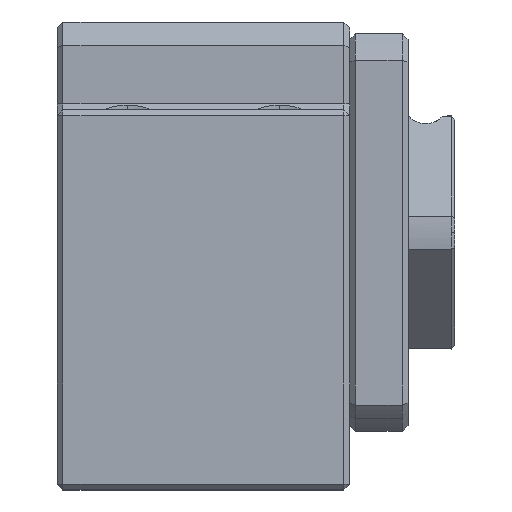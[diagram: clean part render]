
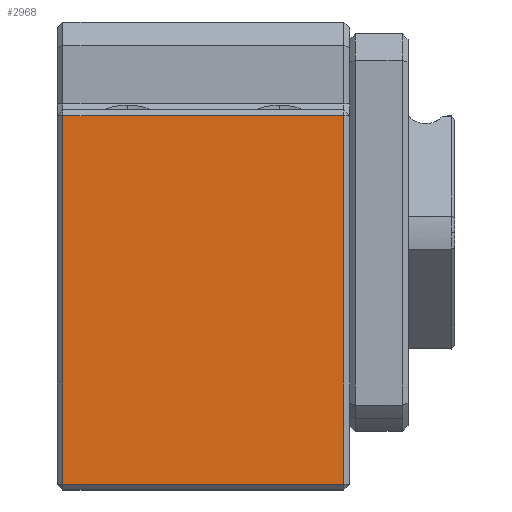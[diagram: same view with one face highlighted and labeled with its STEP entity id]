
A CAD part, front view. The second image highlights one B-rep face of the part: STEP entity #2968.
In plain terms, the highlighted planar face has unit normal (0, -1, 0) as drawn and (-1, 0, 0) by its records, which use the part's own axes.
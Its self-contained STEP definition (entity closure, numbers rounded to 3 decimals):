
#809 = VERTEX_POINT ( 'NONE', #7077 ) ;
#877 = VERTEX_POINT ( 'NONE', #7178 ) ;
#2012 = EDGE_CURVE ( 'NONE', #877, #809, #9055, .T. ) ;
#2033 = VERTEX_POINT ( 'NONE', #9075 ) ;
#2067 = EDGE_CURVE ( 'NONE', #809, #2033, #9135, .T. ) ;
#2148 = EDGE_CURVE ( 'NONE', #2149, #877, #9301, .T. ) ;
#2149 = VERTEX_POINT ( 'NONE', #9297 ) ;
#2968 = ADVANCED_FACE ( 'NONE', ( #14958 ), #14957, .T. ) ;
#2969 = EDGE_LOOP ( 'NONE', ( #2972, #2978, #2982, #2984 ) ) ;
#2972 = ORIENTED_EDGE ( 'NONE', *, *, #2067, .T. ) ;
#2978 = ORIENTED_EDGE ( 'NONE', *, *, #2979, .F. ) ;
#2979 = EDGE_CURVE ( 'NONE', #2149, #2033, #15000, .T. ) ;
#2982 = ORIENTED_EDGE ( 'NONE', *, *, #2148, .T. ) ;
#2984 = ORIENTED_EDGE ( 'NONE', *, *, #2012, .T. ) ;
#7077 = CARTESIAN_POINT ( 'NONE',  ( -30., 12., 0.5 ) ) ;
#7178 = CARTESIAN_POINT ( 'NONE',  ( -30., 12., 32. ) ) ;
#9052 = DIRECTION ( 'NONE',  ( 0., 0., -1. ) ) ;
#9053 = VECTOR ( 'NONE', #9052, 1000. ) ;
#9054 = CARTESIAN_POINT ( 'NONE',  ( -30., 12., 0. ) ) ;
#9055 = LINE ( 'NONE', #9054, #9053 ) ;
#9075 = CARTESIAN_POINT ( 'NONE',  ( -30., -12., 0.5 ) ) ;
#9132 = DIRECTION ( 'NONE',  ( 0., -1., 0. ) ) ;
#9133 = VECTOR ( 'NONE', #9132, 1000. ) ;
#9134 = CARTESIAN_POINT ( 'NONE',  ( -30., -12.5, 0.5 ) ) ;
#9135 = LINE ( 'NONE', #9134, #9133 ) ;
#9297 = CARTESIAN_POINT ( 'NONE',  ( -30., -12., 32. ) ) ;
#9298 = DIRECTION ( 'NONE',  ( 0., 1., 0. ) ) ;
#9299 = VECTOR ( 'NONE', #9298, 1000. ) ;
#9300 = CARTESIAN_POINT ( 'NONE',  ( -30., -12.5, 32. ) ) ;
#9301 = LINE ( 'NONE', #9300, #9299 ) ;
#14953 = DIRECTION ( 'NONE',  ( 0., 0., 1. ) ) ;
#14954 = DIRECTION ( 'NONE',  ( -1., 0., 0. ) ) ;
#14955 = CARTESIAN_POINT ( 'NONE',  ( -30., -12.5, 0. ) ) ;
#14956 = AXIS2_PLACEMENT_3D ( 'NONE', #14955, #14954, #14953 ) ;
#14957 = PLANE ( 'NONE',  #14956 ) ;
#14958 = FACE_OUTER_BOUND ( 'NONE', #2969, .T. ) ;
#14997 = DIRECTION ( 'NONE',  ( 0., 0., -1. ) ) ;
#14998 = VECTOR ( 'NONE', #14997, 1000. ) ;
#14999 = CARTESIAN_POINT ( 'NONE',  ( -30., -12., 0. ) ) ;
#15000 = LINE ( 'NONE', #14999, #14998 ) ;
